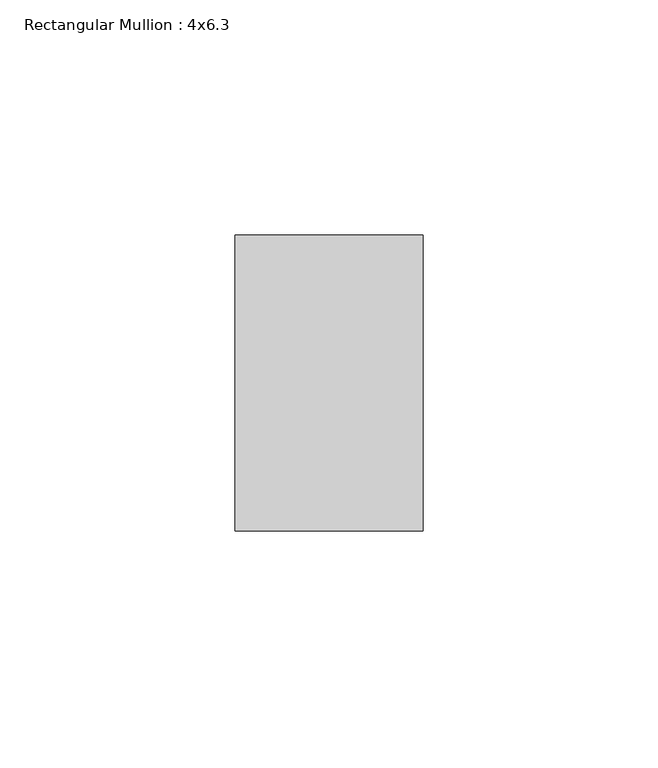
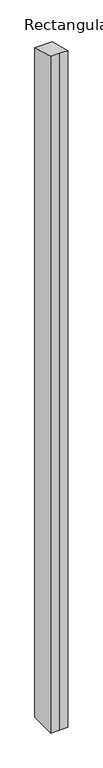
"""IFC4 building model written with IfcOpenShell, lengths in millimetres: member geometry, Rectangular Mullion : 4x6.3."""

from ifc_helpers import new_model, si_unit, origin, place, context, project, spatial, faceted_brep, source, transform, mapped, element, save


def rectangular_mullion_4x6_3_da43fce4(model_context):
    return source(origin(), model_context, "Body", "Brep", [
        faceted_brep([(-20.0, 20.0, -1663.8712259), (-20.0, 83.0, -1663.8712259), (20.0, 83.0, -1663.8712259), (20.0, 20.0, -1663.8712259), (0.0, 20.0, -1663.8712259), (0.0, 20.0, -5.4283368), (-20.0, 20.0, -5.4283368), (20.0, 20.0, -5.4283368), (20.0, 83.0, -22.5275978), (-20.0, 83.0, -22.5275978)], [[[0, 1, 2, 3, 4]], [[5, 6, 0, 4]], [[7, 5, 4, 3]], [[8, 7, 3, 2]], [[9, 8, 2, 1]], [[6, 9, 1, 0]], [[6, 5, 7, 8, 9]]]),
    ])


if __name__ == "__main__":
    model = new_model("IFC4")
    model_context = context("Model", 3, world=origin())
    ifc_project = project(units=[si_unit("LENGTHUNIT", "METRE", prefix="MILLI")], contexts=[model_context])
    site = spatial("IfcSite", under=ifc_project)
    building = spatial("IfcBuilding", under=site)
    placement = place(None, origin())
    rectangular_mullion_4x6_3_shape = rectangular_mullion_4x6_3_da43fce4(model_context)
    element("IfcMember", 1, ObjectType="Rectangular Mullion : 4x6.3", at=placement, inside=building, context=model_context, shape_type="MappedRepresentation", body=[
        mapped(rectangular_mullion_4x6_3_shape, transform((0.0, 0.0, 0.0), x_axis=(1.0, 0.0, 0.0), y_axis=(0.0, 1.0, 0.0), z_axis=(0.0, 0.0, 1.0))),
    ])
    save(model, "model.ifc")
